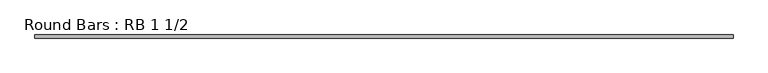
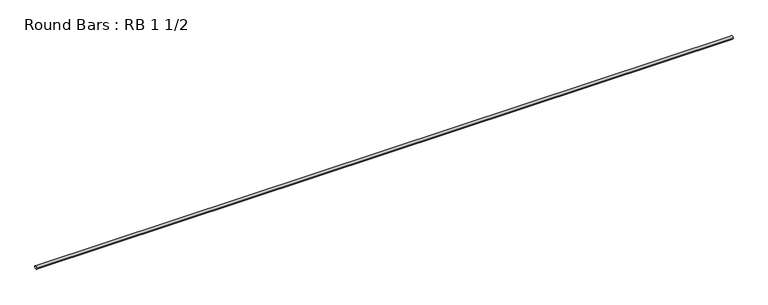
"""IFC4 building model written with IfcOpenShell, lengths in millimetres: member geometry, Round Bars : RB 1 1/2."""

from ifc_helpers import new_model, si_unit, point, frame, origin, origin_2d, place, context, project, spatial, circle_curve, trimmed, segment, composite_curve, outline, extrude, source, transform, mapped, element, save


def round_bars_rb_1_1_2_e72c9891(model_context):
    return source(origin(), model_context, "Body", "SweptSolid", [
        extrude(outline(composite_curve([segment(trimmed(circle_curve(origin_2d(), 19.05), [point((19.05, 0.0))], [point((-19.05, 0.0))], False, "CARTESIAN"), True, "CONTINUOUS"), segment(trimmed(circle_curve(origin_2d(), 19.05), [point((-19.05, 0.0))], [point((19.05, 0.0))], False, "CARTESIAN"), True, "CONTINUOUS")], self_intersect=False)), frame((-4214.4432098, 0.0, 0.0), z_axis=(1.0, 0.0, 0.0), x_axis=(0.0, 1.0, 0.0)), (0.0, 0.0, 1.0), 8428.8848466),
    ])


if __name__ == "__main__":
    model = new_model("IFC4")
    model_context = context("Model", 3, world=origin())
    ifc_project = project(units=[si_unit("LENGTHUNIT", "METRE", prefix="MILLI")], contexts=[model_context])
    site = spatial("IfcSite", under=ifc_project)
    building = spatial("IfcBuilding", under=site)
    placement = place(None, origin())
    round_bars_rb_1_1_2_shape = round_bars_rb_1_1_2_e72c9891(model_context)
    element("IfcMember", 1, ObjectType="Round Bars : RB 1 1/2", at=placement, inside=building, context=model_context, shape_type="MappedRepresentation", body=[
        mapped(round_bars_rb_1_1_2_shape, transform((0.0, 0.0, 0.0), x_axis=(1.0, 0.0, 0.0), y_axis=(0.0, 1.0, 0.0), z_axis=(0.0, 0.0, 1.0))),
    ])
    save(model, "model.ifc")
